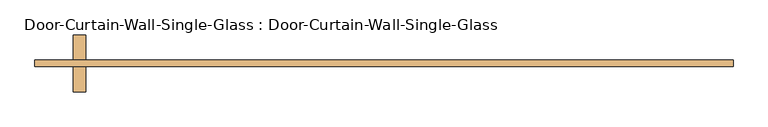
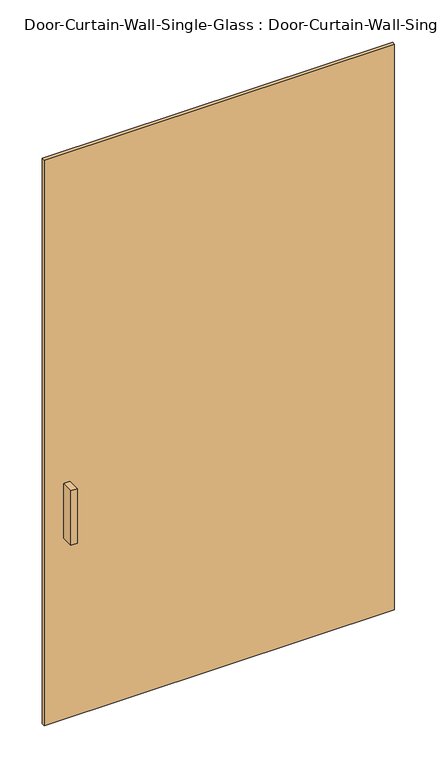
"""IFC4 building model written with IfcOpenShell, lengths in millimetres: door geometry, Door-Curtain-Wall-Single-Glass : Door-Curtain-Wall-Single-Glass."""

from ifc_helpers import new_model, si_unit, frame, origin, origin_with_axes, place, context, project, spatial, polyline, outline, extrude, source, transform, mapped, element, save


def door_curtain_wall_single_glass_door_curtain_wall_single_555aa1df(model_context):
    return source(origin(), model_context, "Body", "SweptSolid", [
        extrude(outline(polyline([(695.5484492, 50.8), (695.5484492, 38.1), (-695.5484492, 38.1), (-695.5484492, 50.8), (695.5484492, 50.8)])), origin_with_axes(), (0.0, 0.0, 1.0), 2375.0),
        extrude(outline(polyline([(-619.3484492, 101.6), (-593.9484492, 101.6), (-593.9484492, 50.8), (-619.3484492, 50.8), (-619.3484492, 101.6)])), frame((0.0, 0.0, 762.0), z_axis=(0.0, 0.0, 1.0), x_axis=(1.0, 0.0, 0.0)), (0.0, 0.0, 1.0), 228.6),
        extrude(outline(polyline([(-593.9484492, -12.7), (-619.3484492, -12.7), (-619.3484492, 38.1), (-593.9484492, 38.1), (-593.9484492, -12.7)])), frame((0.0, 0.0, 762.0), z_axis=(0.0, 0.0, 1.0), x_axis=(1.0, 0.0, 0.0)), (0.0, 0.0, 1.0), 228.6),
    ])


if __name__ == "__main__":
    model = new_model("IFC4")
    model_context = context("Model", 3, world=origin())
    ifc_project = project(units=[si_unit("LENGTHUNIT", "METRE", prefix="MILLI")], contexts=[model_context])
    site = spatial("IfcSite", under=ifc_project)
    building = spatial("IfcBuilding", under=site)
    placement = place(None, origin())
    door_curtain_wall_single_glass_door_curtain_wall_single_shape = door_curtain_wall_single_glass_door_curtain_wall_single_555aa1df(model_context)
    element("IfcDoor", 1, ObjectType="Door-Curtain-Wall-Single-Glass : Door-Curtain-Wall-Single-Glass", at=placement, inside=building, context=model_context, shape_type="MappedRepresentation", body=[
        mapped(door_curtain_wall_single_glass_door_curtain_wall_single_shape, transform((0.0, 0.0, 0.0), x_axis=(1.0, 0.0, 0.0), y_axis=(0.0, 1.0, 0.0), z_axis=(0.0, 0.0, 1.0))),
    ])
    save(model, "model.ifc")
